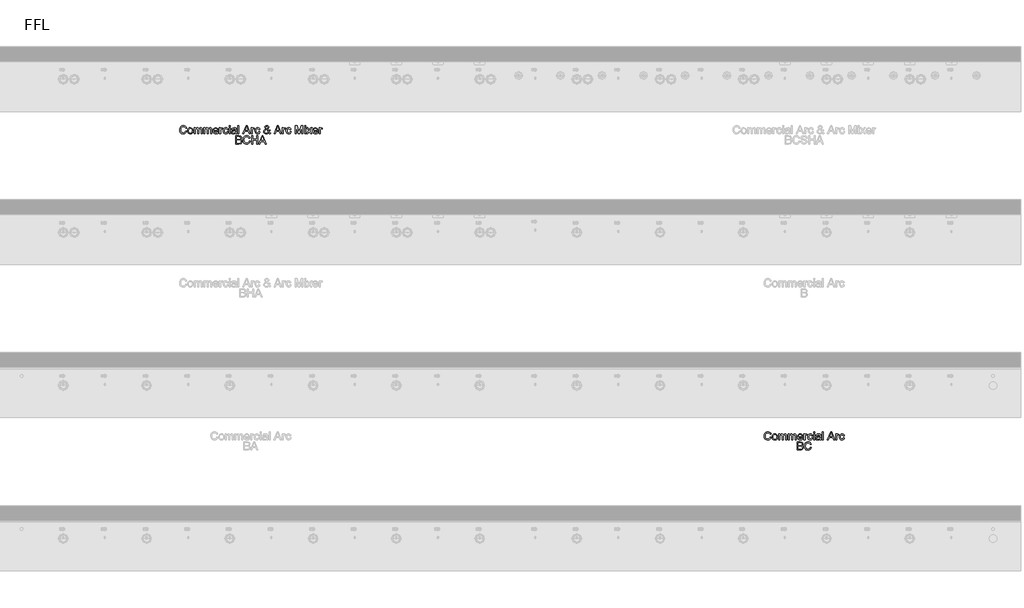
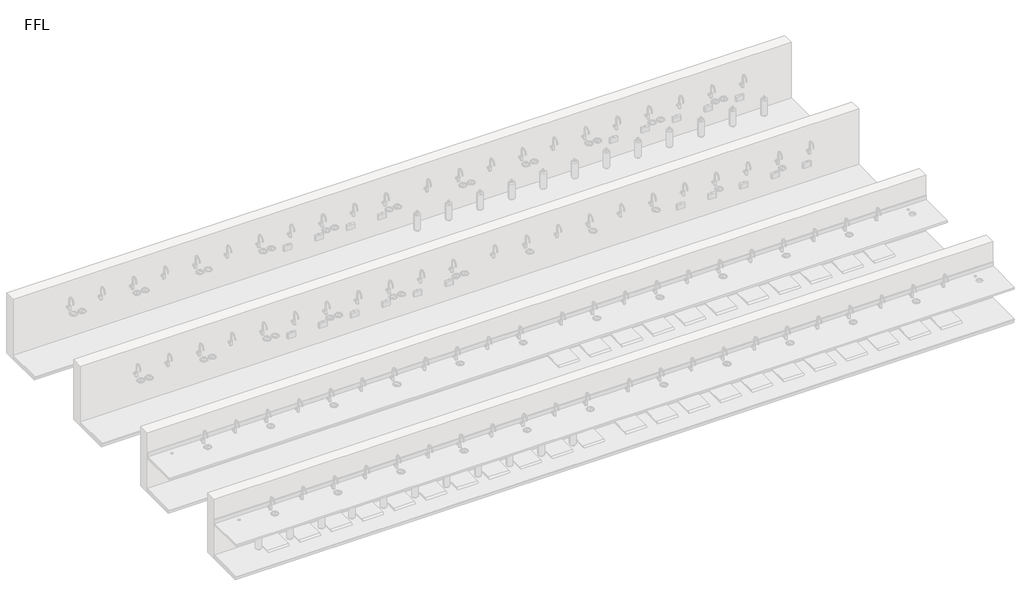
# One storey, part 9 of 10: 2 proxies.
"""IFC4 building model written with IfcOpenShell, lengths in millimetres."""

from ifc_helpers import new_model, si_unit, origin, origin_with_axes, place, context, project, spatial, polyline, outline, extrude, element, save

model = new_model("IFC4")

# Units and contexts
model_context = context("Model", 3, world=origin())
ifc_project = project(units=[si_unit("LENGTHUNIT", "METRE", prefix="MILLI")], contexts=[model_context])

# Site, building, storey
site = spatial("IfcSite", under=ifc_project)
building = spatial("IfcBuilding", under=site)
storey = spatial("IfcBuildingStorey", under=building, Name="FFL", Elevation=0.0)

# Proxies
placement = place(None, origin())
element("IfcBuildingElementProxy", 1, Name="150mm Arial", ObjectType="150mm Arial", at=placement, inside=storey, context=model_context, shape_type="SweptSolid", body=[
    extrude(outline(polyline([(-3514.7352929, 6596.3018309), (-3496.2737544, 6591.5422155), (-3504.7923842, 6570.0292948), (-3518.1607736, 6554.3126482), (-3535.7208698, 6544.698766), (-3556.8146198, 6541.4941386), (-3578.2283818, 6543.9190184), (-3595.2340909, 6551.1936578), (-3608.2689467, 6563.065653), (-3617.7701486, 6579.2826001), (-3623.5709299, 6598.3481049), (-3625.5045236, 6618.7657732), (-3623.318526, 6640.3012299), (-3616.7605333, 6658.8979847), (-3606.1730934, 6673.9655929), (-3591.8987544, 6684.9136097), (-3574.9696679, 6691.5797756), (-3556.4179852, 6693.8018309), (-3536.1760982, 6690.9262299), (-3519.4408217, 6682.299427), (-3506.7349924, 6668.4532732), (-3498.5814467, 6649.9196193), (-3517.0429852, 6645.5205809), (-3523.4432256, 6658.9836217), (-3532.1872159, 6668.2188982), (-3543.3831294, 6673.5599439), (-3557.139139, 6675.3402924), (-3572.9955092, 6673.3661338), (-3586.0213506, 6667.4436578), (-3595.9056655, 6658.1948597), (-3602.3374563, 6646.2417347), (-3607.0429852, 6618.8018309), (-3601.4720717, 6586.9989463), (-3594.3506775, 6575.1224439), (-3584.1283217, 6566.6804367), (-3571.8732135, 6561.6368669), (-3558.6535621, 6559.955677), (-3543.2434059, 6562.2453405), (-3530.4023602, 6569.1143309), (-3520.7073482, 6580.4905328), (-3514.7352929, 6596.3018309)])), origin_with_axes(), (0.0, 0.0, 1.0), 5.0),
    extrude(outline(polyline([(-3477.8122159, 6598.0326001), (-3473.8188265, 6624.1834415), (-3461.8386583, 6642.5638501), (-3447.0369756, 6651.5692588), (-3429.3146198, 6654.5710617), (-3409.9200885, 6650.9157131), (-3394.4288025, 6639.9496674), (-3384.2740549, 6622.5383092), (-3380.889139, 6599.5470232), (-3382.3855333, 6580.8961818), (-3386.8747159, 6566.6984655), (-3394.225978, 6556.0659535), (-3404.3086102, 6548.1107251), (-3416.2842712, 6543.1482852), (-3429.3146198, 6541.4941386), (-3448.943526, 6545.1359655), (-3464.4167833, 6556.0614463), (-3474.4633578, 6573.8378886), (-3477.8122159, 6598.0326001)]), holes=[polyline([(-3459.3506775, 6598.0686578), (-3457.2142592, 6581.3604246), (-3450.8050044, 6569.456879), (-3441.1595717, 6562.3309775), (-3429.3146198, 6559.955677), (-3417.5237544, 6562.3444992), (-3407.8963506, 6569.5109655), (-3401.4870958, 6581.5722636), (-3399.3506775, 6598.6455809), (-3401.5006174, 6614.8670352), (-3407.9504371, 6626.6083213), (-3417.5913626, 6633.7342227), (-3429.3146198, 6636.1095232), (-3441.1595717, 6633.7432371), (-3450.8050044, 6626.644379), (-3457.2142592, 6614.7678766), (-3459.3506775, 6598.0686578)])]), origin_with_axes(), (0.0, 0.0, 1.0), 5.0),
    extrude(outline(polyline([(-3360.1199083, 6543.8018309), (-3360.1199083, 6652.2633693), (-3341.6583698, 6652.2633693), (-3341.6583698, 6634.4148117), (-3328.9660621, 6649.0362059), (-3310.9011583, 6654.5710617), (-3300.6337304, 6653.1603044), (-3292.4035621, 6648.9280328), (-3282.2352929, 6633.1167347), (-3267.8302448, 6649.2074799), (-3249.639139, 6654.5710617), (-3235.7614347, 6652.3399919), (-3225.498514, 6645.6467828), (-3219.1568674, 6634.3111458), (-3217.0429852, 6618.1527924), (-3217.0429852, 6543.8018309), (-3235.5045236, 6543.8018309), (-3235.5045236, 6610.2201001), (-3237.217264, 6625.6347636), (-3243.4191871, 6633.2249078), (-3253.9660621, 6636.1095232), (-3263.9675645, 6634.2615665), (-3272.1211102, 6628.7176963), (-3277.5432857, 6619.0993068), (-3279.3506775, 6605.0277924), (-3279.3506775, 6543.8018309), (-3297.8122159, 6543.8018309), (-3297.8122159, 6612.2753886), (-3302.0850525, 6630.160004), (-3307.7235741, 6634.6221434), (-3316.0934659, 6636.1095232), (-3329.7593313, 6632.143177), (-3338.8458698, 6620.5326001), (-3341.6583698, 6598.5013501), (-3341.6583698, 6543.8018309), (-3360.1199083, 6543.8018309)])), origin_with_axes(), (0.0, 0.0, 1.0), 5.0),
    extrude(outline(polyline([(-3189.3506775, 6543.8018309), (-3189.3506775, 6652.2633693), (-3170.889139, 6652.2633693), (-3170.889139, 6634.4148117), (-3158.1968313, 6649.0362059), (-3140.1319275, 6654.5710617), (-3129.8644996, 6653.1603044), (-3121.6343313, 6648.9280328), (-3111.4660621, 6633.1167347), (-3097.061014, 6649.2074799), (-3078.8699083, 6654.5710617), (-3064.9922039, 6652.3399919), (-3054.7292833, 6645.6467828), (-3048.3876366, 6634.3111458), (-3046.2737544, 6618.1527924), (-3046.2737544, 6543.8018309), (-3064.7352929, 6543.8018309), (-3064.7352929, 6610.2201001), (-3066.4480333, 6625.6347636), (-3072.6499563, 6633.2249078), (-3083.1968313, 6636.1095232), (-3093.1983337, 6634.2615665), (-3101.3518794, 6628.7176963), (-3106.7740549, 6619.0993068), (-3108.5814467, 6605.0277924), (-3108.5814467, 6543.8018309), (-3127.0429852, 6543.8018309), (-3127.0429852, 6612.2753886), (-3131.3158217, 6630.160004), (-3136.9543434, 6634.6221434), (-3145.3242352, 6636.1095232), (-3158.9901006, 6632.143177), (-3168.076639, 6620.5326001), (-3170.889139, 6598.5013501), (-3170.889139, 6543.8018309), (-3189.3506775, 6543.8018309)])), origin_with_axes(), (0.0, 0.0, 1.0), 5.0),
    extrude(outline(polyline([(-2942.6439467, 6576.1095232), (-2924.5429852, 6573.8018309), (-2931.0649203, 6560.1630088), (-2941.4720717, 6549.9676963), (-2955.5300645, 6543.612528), (-2973.0045236, 6541.4941386), (-2994.6661823, 6545.1494871), (-3011.3338506, 6556.1155328), (-3021.9618554, 6573.6801362), (-3025.5045236, 6597.1311578), (-3021.9257977, 6621.3709415), (-3011.1896198, 6639.4989463), (-2994.7473121, 6650.8030328), (-2974.0501967, 6654.5710617), (-2953.9976126, 6650.8120472), (-2937.9744756, 6639.535004), (-2927.4681655, 6621.4430568), (-2923.9660621, 6597.2393309), (-2924.0742352, 6592.2633693), (-3007.0429852, 6592.2633693), (-3003.8473722, 6578.4442588), (-2996.4239948, 6568.285004), (-2985.710353, 6562.0380088), (-2972.6439467, 6559.955677), (-2954.5429852, 6563.8138501), (-2942.6439467, 6576.1095232)]), holes=[polyline([(-3007.0429852, 6610.7249078), (-2942.4276006, 6610.7249078), (-2944.9245958, 6620.4785136), (-2949.8194275, 6627.455677), (-2960.5826486, 6633.9460617), (-2974.1223121, 6636.1095232), (-2986.5667232, 6634.3832612), (-2996.8566871, 6629.2044751), (-3004.0096318, 6621.1320592), (-3007.0429852, 6610.7249078)])]), origin_with_axes(), (0.0, 0.0, 1.0), 5.0),
    extrude(outline(polyline([(-2905.5045236, 6543.8018309), (-2905.5045236, 6652.2633693), (-2889.3506775, 6652.2633693), (-2889.3506775, 6636.2176963), (-2877.8843313, 6651.0013501), (-2866.3458698, 6654.5710617), (-2847.8122159, 6648.8739463), (-2853.9780813, 6632.3234655), (-2866.9588506, 6636.1095232), (-2877.3975525, 6632.4676963), (-2884.0501967, 6622.3715424), (-2887.0429852, 6600.8090424), (-2887.0429852, 6543.8018309), (-2905.5045236, 6543.8018309)])), origin_with_axes(), (0.0, 0.0, 1.0), 5.0),
    extrude(outline(polyline([(-2767.0429852, 6583.0326001), (-2748.5814467, 6580.7249078), (-2753.7286823, 6564.3051362), (-2763.4011583, 6551.8967828), (-2776.6884179, 6544.0947996), (-2792.6800044, 6541.4941386), (-2812.3179251, 6545.1224439), (-2827.6739948, 6556.0073597), (-2837.585353, 6573.6711217), (-2840.889139, 6597.6359655), (-2835.2461102, 6628.3030328), (-2828.1247159, 6639.8009294), (-2818.0465909, 6648.0085617), (-2805.9898001, 6652.9304367), (-2792.9324083, 6654.5710617), (-2777.3329491, 6652.3174559), (-2764.8614948, 6645.5566386), (-2755.9146799, 6634.6491867), (-2750.889139, 6619.955677), (-2769.3506775, 6617.6479847), (-2777.9143794, 6631.4761097), (-2792.7881775, 6636.1095232), (-2804.7187664, 6633.8288742), (-2814.1884179, 6626.986927), (-2820.3678049, 6615.2140905), (-2822.4276006, 6598.1407732), (-2820.412877, 6580.8375881), (-2814.3687063, 6569.0241867), (-2805.0703289, 6562.2228044), (-2793.2929852, 6559.955677), (-2783.7331895, 6561.3709415), (-2775.8951486, 6565.6167347), (-2770.193526, 6572.8012299), (-2767.0429852, 6583.0326001)])), origin_with_axes(), (0.0, 0.0, 1.0), 5.0),
    extrude(outline(polyline([(-2732.4276006, 6673.0326001), (-2732.4276006, 6691.4941386), (-2713.9660621, 6691.4941386), (-2713.9660621, 6673.0326001), (-2732.4276006, 6673.0326001)])), origin_with_axes(), (0.0, 0.0, 1.0), 5.0),
    extrude(outline(polyline([(-2732.4276006, 6543.8018309), (-2732.4276006, 6652.2633693), (-2713.9660621, 6652.2633693), (-2713.9660621, 6543.8018309), (-2732.4276006, 6543.8018309)])), origin_with_axes(), (0.0, 0.0, 1.0), 5.0),
    extrude(outline(polyline([(-2617.0429852, 6557.6479847), (-2634.9456294, 6545.1359655), (-2654.7232736, 6541.4941386), (-2670.1514587, 6543.6846434), (-2681.5321679, 6550.2561578), (-2688.5498962, 6560.2351242), (-2690.889139, 6572.6479847), (-2687.3554852, 6587.2513501), (-2678.0706294, 6597.8523117), (-2665.1439467, 6603.910004), (-2649.170389, 6606.6864463), (-2617.1511583, 6613.0326001), (-2617.0429852, 6617.143177), (-2618.3140188, 6625.3823597), (-2622.1271198, 6630.7729847), (-2630.654764, 6634.7753886), (-2642.5357736, 6636.1095232), (-2661.2136583, 6632.5578405), (-2670.1199083, 6619.955677), (-2688.5814467, 6622.2633693), (-2680.5946679, 6640.2922155), (-2664.5129371, 6650.8571193), (-2640.1559659, 6654.5710617), (-2617.7821679, 6651.2898117), (-2605.1439467, 6643.050629), (-2599.482889, 6630.5205809), (-2598.5814467, 6614.3667347), (-2598.5814467, 6591.3979847), (-2597.6439467, 6559.3246674), (-2593.9660621, 6543.8018309), (-2612.4276006, 6543.8018309), (-2617.0429852, 6557.6479847)]), holes=[polyline([(-2617.0429852, 6594.5710617), (-2646.826639, 6588.910004), (-2662.7100525, 6585.9172155), (-2669.9035621, 6581.049427), (-2672.4276006, 6573.9460617), (-2666.9288025, 6563.9580809), (-2650.7929852, 6559.955677), (-2632.1151006, 6564.3727443), (-2620.0718313, 6575.0638501), (-2617.1511583, 6589.3426963), (-2617.0429852, 6594.5710617)])]), origin_with_axes(), (0.0, 0.0, 1.0), 5.0),
    extrude(outline(polyline([(-2573.1968313, 6543.8018309), (-2573.1968313, 6691.4941386), (-2554.7352929, 6691.4941386), (-2554.7352929, 6543.8018309), (-2573.1968313, 6543.8018309)])), origin_with_axes(), (0.0, 0.0, 1.0), 5.0),
    extrude(outline(polyline([(-2484.2425044, 6543.8018309), (-2425.2881775, 6691.4941386), (-2409.5670236, 6691.4941386), (-2350.6126967, 6543.8018309), (-2370.1199083, 6543.8018309), (-2387.0309659, 6589.955677), (-2447.8602929, 6589.955677), (-2464.7352929, 6543.8018309), (-2484.2425044, 6543.8018309)]), holes=[polyline([(-2441.0814467, 6608.4172155), (-2393.7737544, 6608.4172155), (-2407.0790429, 6644.7273117), (-2417.4276006, 6673.0326001), (-2426.6223121, 6647.9003886), (-2441.0814467, 6608.4172155)])]), origin_with_axes(), (0.0, 0.0, 1.0), 5.0),
    extrude(outline(polyline([(-2333.1968313, 6543.8018309), (-2333.1968313, 6652.2633693), (-2317.0429852, 6652.2633693), (-2317.0429852, 6636.2176963), (-2305.576639, 6651.0013501), (-2294.0381775, 6654.5710617), (-2275.5045236, 6648.8739463), (-2281.670389, 6632.3234655), (-2294.6511583, 6636.1095232), (-2305.0898602, 6632.4676963), (-2311.7425044, 6622.3715424), (-2314.7352929, 6600.8090424), (-2314.7352929, 6543.8018309), (-2333.1968313, 6543.8018309)])), origin_with_axes(), (0.0, 0.0, 1.0), 5.0),
    extrude(outline(polyline([(-2194.7352929, 6583.0326001), (-2176.2737544, 6580.7249078), (-2181.42099, 6564.3051362), (-2191.0934659, 6551.8967828), (-2204.3807256, 6544.0947996), (-2220.3723121, 6541.4941386), (-2240.0102328, 6545.1224439), (-2255.3663025, 6556.0073597), (-2265.2776607, 6573.6711217), (-2268.5814467, 6597.6359655), (-2262.9384179, 6628.3030328), (-2255.8170236, 6639.8009294), (-2245.7388986, 6648.0085617), (-2233.6821078, 6652.9304367), (-2220.6247159, 6654.5710617), (-2205.0252568, 6652.3174559), (-2192.5538025, 6645.5566386), (-2183.6069876, 6634.6491867), (-2178.5814467, 6619.955677), (-2197.0429852, 6617.6479847), (-2205.6066871, 6631.4761097), (-2220.4804852, 6636.1095232), (-2232.4110741, 6633.8288742), (-2241.8807256, 6626.986927), (-2248.0601126, 6615.2140905), (-2250.1199083, 6598.1407732), (-2248.1051847, 6580.8375881), (-2242.061014, 6569.0241867), (-2232.7626366, 6562.2228044), (-2220.9852929, 6559.955677), (-2211.4254972, 6561.3709415), (-2203.5874563, 6565.6167347), (-2197.8858337, 6572.8012299), (-2194.7352929, 6583.0326001)])), origin_with_axes(), (0.0, 0.0, 1.0), 5.0),
    extrude(outline(polyline([(-2017.7280813, 6562.0470232), (-2037.3074083, 6546.6323597), (-2060.2040429, 6541.4941386), (-2080.576639, 6545.2982251), (-2096.2617352, 6556.7104847), (-2104.3476727, 6569.8444992), (-2107.0429852, 6584.4388501), (-2104.8750164, 6597.3745472), (-2098.3711102, 6608.9941386), (-2087.5583097, 6619.2886097), (-2072.4636583, 6628.2489463), (-2085.3542833, 6646.9268309), (-2088.5814467, 6660.7729847), (-2086.0393794, 6673.2399318), (-2078.4131775, 6683.9580809), (-2066.9378169, 6691.3408934), (-2052.8482736, 6693.8018309), (-2039.4438265, 6691.4490665), (-2028.7256775, 6684.3907732), (-2021.6944275, 6674.0332011), (-2019.3506775, 6661.7826001), (-2021.0859539, 6651.4971434), (-2026.2917833, 6641.986927), (-2047.1151006, 6625.2922155), (-2020.3963506, 6592.0109655), (-2012.4276006, 6612.455677), (-1993.9660621, 6608.4532732), (-2007.0189467, 6578.0566386), (-1984.7352929, 6555.7008693), (-1998.5814467, 6541.4941386), (-2017.7280813, 6562.0470232)]), holes=[polyline([(-2056.4540429, 6636.9388501), (-2041.2737544, 6648.3871674), (-2037.8122159, 6659.2585617), (-2042.373514, 6670.8511097), (-2053.7857736, 6675.3402924), (-2065.4504371, 6670.8871674), (-2070.1199083, 6660.0157732), (-2068.5333698, 6653.2549559), (-2063.7376967, 6645.736927), (-2056.4540429, 6636.9388501)]), polyline([(-2030.0958698, 6575.3523117), (-2063.0526006, 6616.4941386), (-2083.3350525, 6601.0253886), (-2088.5814467, 6586.8907732), (-2086.7875765, 6578.1828405), (-2081.4059659, 6569.1503886), (-2072.7340909, 6562.2543549), (-2061.0694275, 6559.955677), (-2044.1042833, 6564.2465424), (-2030.0958698, 6575.3523117)])]), origin_with_axes(), (0.0, 0.0, 1.0), 5.0),
    extrude(outline(polyline([(-1923.4732736, 6543.8018309), (-1864.5189467, 6691.4941386), (-1848.7977929, 6691.4941386), (-1789.8434659, 6543.8018309), (-1809.3506775, 6543.8018309), (-1826.2617352, 6589.955677), (-1887.0910621, 6589.955677), (-1903.9660621, 6543.8018309), (-1923.4732736, 6543.8018309)]), holes=[polyline([(-1880.3122159, 6608.4172155), (-1833.0045236, 6608.4172155), (-1846.3098121, 6644.7273117), (-1856.6583698, 6673.0326001), (-1865.8530813, 6647.9003886), (-1880.3122159, 6608.4172155)])]), origin_with_axes(), (0.0, 0.0, 1.0), 5.0),
    extrude(outline(polyline([(-1772.4276006, 6543.8018309), (-1772.4276006, 6652.2633693), (-1756.2737544, 6652.2633693), (-1756.2737544, 6636.2176963), (-1744.8074083, 6651.0013501), (-1733.2689467, 6654.5710617), (-1714.7352929, 6648.8739463), (-1720.9011583, 6632.3234655), (-1733.8819275, 6636.1095232), (-1744.3206294, 6632.4676963), (-1750.9732736, 6622.3715424), (-1753.9660621, 6600.8090424), (-1753.9660621, 6543.8018309), (-1772.4276006, 6543.8018309)])), origin_with_axes(), (0.0, 0.0, 1.0), 5.0),
    extrude(outline(polyline([(-1633.9660621, 6583.0326001), (-1615.5045236, 6580.7249078), (-1620.6517592, 6564.3051362), (-1630.3242352, 6551.8967828), (-1643.6114948, 6544.0947996), (-1659.6030813, 6541.4941386), (-1679.241002, 6545.1224439), (-1694.5970717, 6556.0073597), (-1704.5084299, 6573.6711217), (-1707.8122159, 6597.6359655), (-1702.1691871, 6628.3030328), (-1695.0477929, 6639.8009294), (-1684.9696679, 6648.0085617), (-1672.912877, 6652.9304367), (-1659.8554852, 6654.5710617), (-1644.256026, 6652.3174559), (-1631.7845717, 6645.5566386), (-1622.8377568, 6634.6491867), (-1617.8122159, 6619.955677), (-1636.2737544, 6617.6479847), (-1644.8374563, 6631.4761097), (-1659.7112544, 6636.1095232), (-1671.6418434, 6633.8288742), (-1681.1114948, 6626.986927), (-1687.2908818, 6615.2140905), (-1689.3506775, 6598.1407732), (-1687.3359539, 6580.8375881), (-1681.2917833, 6569.0241867), (-1671.9934059, 6562.2228044), (-1660.2160621, 6559.955677), (-1650.6562664, 6561.3709415), (-1642.8182256, 6565.6167347), (-1637.116603, 6572.8012299), (-1633.9660621, 6583.0326001)])), origin_with_axes(), (0.0, 0.0, 1.0), 5.0),
    extrude(outline(polyline([(-1539.3506775, 6543.8018309), (-1539.3506775, 6691.4941386), (-1507.5838506, 6691.4941386), (-1477.3675044, 6587.3955809), (-1471.2737544, 6565.6527924), (-1464.6751967, 6589.1984655), (-1434.9636583, 6691.4941386), (-1403.1968313, 6691.4941386), (-1403.1968313, 6543.8018309), (-1421.6583698, 6543.8018309), (-1421.6583698, 6673.0326001), (-1458.7617352, 6543.8018309), (-1483.7857736, 6543.8018309), (-1520.889139, 6673.0326001), (-1520.889139, 6543.8018309), (-1539.3506775, 6543.8018309)])), origin_with_axes(), (0.0, 0.0, 1.0), 5.0),
    extrude(outline(polyline([(-1373.1968313, 6543.8018309), (-1373.1968313, 6652.2633693), (-1354.7352929, 6652.2633693), (-1354.7352929, 6543.8018309), (-1373.1968313, 6543.8018309)])), origin_with_axes(), (0.0, 0.0, 1.0), 5.0),
    extrude(outline(polyline([(-1373.1968313, 6673.0326001), (-1373.1968313, 6691.4941386), (-1354.7352929, 6691.4941386), (-1354.7352929, 6673.0326001), (-1373.1968313, 6673.0326001)])), origin_with_axes(), (0.0, 0.0, 1.0), 5.0),
    extrude(outline(polyline([(-1338.5814467, 6543.8018309), (-1299.1343313, 6598.3210617), (-1336.2737544, 6652.2633693), (-1314.0622159, 6652.2633693), (-1296.1415429, 6626.3018309), (-1287.7761583, 6614.0422155), (-1280.5285621, 6624.066254), (-1260.1199083, 6652.2633693), (-1237.9083698, 6652.2633693), (-1276.9227929, 6598.3210617), (-1239.3506775, 6543.8018309), (-1261.5622159, 6543.8018309), (-1284.170389, 6576.5782732), (-1288.3170236, 6582.5638501), (-1316.3699083, 6543.8018309), (-1338.5814467, 6543.8018309)])), origin_with_axes(), (0.0, 0.0, 1.0), 5.0),
    extrude(outline(polyline([(-1147.2593313, 6576.1095232), (-1129.1583698, 6573.8018309), (-1135.6803049, 6560.1630088), (-1146.0874563, 6549.9676963), (-1160.1454491, 6543.612528), (-1177.6199083, 6541.4941386), (-1199.2815669, 6545.1494871), (-1215.9492352, 6556.1155328), (-1226.57724, 6573.6801362), (-1230.1199083, 6597.1311578), (-1226.5411823, 6621.3709415), (-1215.8050044, 6639.4989463), (-1199.3626967, 6650.8030328), (-1178.6655813, 6654.5710617), (-1158.6129972, 6650.8120472), (-1142.5898602, 6639.535004), (-1132.0835501, 6621.4430568), (-1128.5814467, 6597.2393309), (-1128.6896198, 6592.2633693), (-1211.6583698, 6592.2633693), (-1208.4627568, 6578.4442588), (-1201.0393794, 6568.285004), (-1190.3257376, 6562.0380088), (-1177.2593313, 6559.955677), (-1159.1583698, 6563.8138501), (-1147.2593313, 6576.1095232)]), holes=[polyline([(-1211.6583698, 6610.7249078), (-1147.0429852, 6610.7249078), (-1149.5399804, 6620.4785136), (-1154.4348121, 6627.455677), (-1165.1980333, 6633.9460617), (-1178.7376967, 6636.1095232), (-1191.1821078, 6634.3832612), (-1201.4720717, 6629.2044751), (-1208.6250164, 6621.1320592), (-1211.6583698, 6610.7249078)])]), origin_with_axes(), (0.0, 0.0, 1.0), 5.0),
    extrude(outline(polyline([(-1110.1199083, 6543.8018309), (-1110.1199083, 6652.2633693), (-1093.9660621, 6652.2633693), (-1093.9660621, 6636.2176963), (-1082.4997159, 6651.0013501), (-1070.9612544, 6654.5710617), (-1052.4276006, 6648.8739463), (-1058.5934659, 6632.3234655), (-1071.5742352, 6636.1095232), (-1082.0129371, 6632.4676963), (-1088.6655813, 6622.3715424), (-1091.6583698, 6600.8090424), (-1091.6583698, 6543.8018309), (-1110.1199083, 6543.8018309)])), origin_with_axes(), (0.0, 0.0, 1.0), 5.0),
    extrude(outline(polyline([(-2612.4276006, 6361.4941386), (-2612.4276006, 6509.1864463), (-2556.0694275, 6509.1864463), (-2528.467264, 6504.8414943), (-2519.1914227, 6499.3291746), (-2512.1691871, 6491.4821193), (-2506.2737544, 6472.5878886), (-2511.2316871, 6455.3342828), (-2526.2136583, 6442.2633693), (-2515.7524203, 6436.800629), (-2508.0225525, 6428.4893309), (-2503.2494155, 6417.8793549), (-2501.6583698, 6405.5205809), (-2506.0033217, 6385.6708213), (-2516.7665429, 6371.5362059), (-2532.8302448, 6364.0362059), (-2556.5021198, 6361.4941386), (-2612.4276006, 6361.4941386)]), holes=[polyline([(-2593.9660621, 6379.955677), (-2556.1054852, 6379.955677), (-2542.4035621, 6380.6768309), (-2530.811014, 6384.6972636), (-2523.1307256, 6392.9003886), (-2520.1199083, 6405.3402924), (-2523.6535621, 6419.691254), (-2535.1018794, 6428.2549559), (-2557.9083698, 6430.7249078), (-2593.9660621, 6430.7249078), (-2593.9660621, 6379.955677)]), polyline([(-2593.9660621, 6449.1864463), (-2560.2521198, 6449.1864463), (-2540.5646198, 6450.7729847), (-2528.7196679, 6457.6059174), (-2524.7352929, 6469.6311578), (-2528.4492352, 6481.674427), (-2539.0862544, 6488.7958213), (-2562.8122159, 6490.7249078), (-2593.9660621, 6490.7249078), (-2593.9660621, 6449.1864463)])]), origin_with_axes(), (0.0, 0.0, 1.0), 5.0),
    extrude(outline(polyline([(-2372.4276006, 6413.9941386), (-2353.9660621, 6409.2345232), (-2362.4846919, 6387.7216025), (-2375.8530813, 6372.0049559), (-2393.4131775, 6362.3910737), (-2414.5069275, 6359.1864463), (-2435.9206895, 6361.6113261), (-2452.9263986, 6368.8859655), (-2465.9612544, 6380.7579607), (-2475.4624563, 6396.9749078), (-2481.2632376, 6416.0404126), (-2483.1968313, 6436.4580809), (-2481.0108337, 6457.9935376), (-2474.4528409, 6476.5902924), (-2463.865401, 6491.6579006), (-2449.5910621, 6502.6059174), (-2432.6619756, 6509.2720833), (-2414.1102929, 6511.4941386), (-2393.8684059, 6508.6185376), (-2377.1331294, 6499.9917347), (-2364.4273001, 6486.1455809), (-2356.2737544, 6467.611927), (-2374.7352929, 6463.2128886), (-2381.1355333, 6476.6759294), (-2389.8795236, 6485.9112059), (-2401.0754371, 6491.2522516), (-2414.8314467, 6493.0326001), (-2430.6878169, 6491.0584415), (-2443.7136583, 6485.1359655), (-2453.5979732, 6475.8871674), (-2460.029764, 6463.9340424), (-2464.7352929, 6436.4941386), (-2459.1643794, 6404.691254), (-2452.0429852, 6392.8147516), (-2441.8206294, 6384.3727443), (-2429.5655212, 6379.3291746), (-2416.3458698, 6377.6479847), (-2400.9357135, 6379.9376482), (-2388.0946679, 6386.8066386), (-2378.3996559, 6398.1828405), (-2372.4276006, 6413.9941386)])), origin_with_axes(), (0.0, 0.0, 1.0), 5.0),
    extrude(outline(polyline([(-2328.5814467, 6361.4941386), (-2328.5814467, 6509.1864463), (-2310.1199083, 6509.1864463), (-2310.1199083, 6449.1864463), (-2231.6583698, 6449.1864463), (-2231.6583698, 6509.1864463), (-2213.1968313, 6509.1864463), (-2213.1968313, 6361.4941386), (-2231.6583698, 6361.4941386), (-2231.6583698, 6430.7249078), (-2310.1199083, 6430.7249078), (-2310.1199083, 6361.4941386), (-2328.5814467, 6361.4941386)])), origin_with_axes(), (0.0, 0.0, 1.0), 5.0),
    extrude(outline(polyline([(-2198.0886583, 6361.4941386), (-2139.1343313, 6509.1864463), (-2123.4131775, 6509.1864463), (-2064.4588506, 6361.4941386), (-2083.9660621, 6361.4941386), (-2100.8771198, 6407.6479847), (-2161.7064467, 6407.6479847), (-2178.5814467, 6361.4941386), (-2198.0886583, 6361.4941386)]), holes=[polyline([(-2154.9276006, 6426.1095232), (-2107.6199083, 6426.1095232), (-2120.9251967, 6462.4196193), (-2131.2737544, 6490.7249078), (-2140.4684659, 6465.5926963), (-2154.9276006, 6426.1095232)])]), origin_with_axes(), (0.0, 0.0, 1.0), 5.0),
])
element("IfcBuildingElementProxy", 2, Name="150mm Arial", ObjectType="150mm Arial", at=placement, inside=storey, context=model_context, shape_type="SweptSolid", body=[
    extrude(outline(polyline([(7014.8800917, 1076.3018309), (7033.3416302, 1071.5422155), (7024.8230004, 1050.0292948), (7011.454611, 1034.3126482), (6993.8945148, 1024.698766), (6972.8007648, 1021.4941386), (6951.3870028, 1023.9190184), (6934.3812937, 1031.1936578), (6921.3464379, 1043.065653), (6911.845236, 1059.2826001), (6906.0444547, 1078.3481049), (6904.110861, 1098.7657732), (6906.2968586, 1120.3012299), (6912.8548514, 1138.8979847), (6923.4422913, 1153.9655929), (6937.7166302, 1164.9136097), (6954.6457167, 1171.5797756), (6973.1973994, 1173.8018309), (6993.4392865, 1170.9262299), (7010.1745629, 1162.299427), (7022.8803922, 1148.4532732), (7031.0339379, 1129.9196193), (7012.5723994, 1125.5205809), (7006.1721591, 1138.9836217), (6997.4281687, 1148.2188982), (6986.2322552, 1153.5599439), (6972.4762456, 1155.3402924), (6956.6198754, 1153.3661338), (6943.5940341, 1147.4436578), (6933.7097191, 1138.1948597), (6927.2779283, 1126.2417347), (6922.5723994, 1098.8018309), (6928.1433129, 1066.9989463), (6935.2647071, 1055.1224439), (6945.4870629, 1046.6804367), (6957.7421711, 1041.6368669), (6970.9618225, 1039.955677), (6986.3719788, 1042.2453405), (6999.2130244, 1049.1143309), (7008.9080365, 1060.4905328), (7014.8800917, 1076.3018309)])), origin_with_axes(), (0.0, 0.0, 1.0), 5.0),
    extrude(outline(polyline([(7051.8031687, 1078.0326001), (7055.7965581, 1104.1834415), (7067.7767264, 1122.5638501), (7082.5784091, 1131.5692588), (7100.3007648, 1134.5710617), (7119.6952961, 1130.9157131), (7135.1865821, 1119.9496674), (7145.3413297, 1102.5383092), (7148.7262456, 1079.5470232), (7147.2298514, 1060.8961818), (7142.7406687, 1046.6984655), (7135.3894066, 1036.0659535), (7125.3067744, 1028.1107251), (7113.3311134, 1023.1482852), (7100.3007648, 1021.4941386), (7080.6718586, 1025.1359655), (7065.1986014, 1036.0614463), (7055.1520268, 1053.8378886), (7051.8031687, 1078.0326001)]), holes=[polyline([(7070.2647071, 1078.0686578), (7072.4011254, 1061.3604246), (7078.8103802, 1049.456879), (7088.4558129, 1042.3309775), (7100.3007648, 1039.955677), (7112.0916302, 1042.3444992), (7121.7190341, 1049.5109655), (7128.1282889, 1061.5722636), (7130.2647071, 1078.6455809), (7128.1147672, 1094.8670352), (7121.6649475, 1106.6083213), (7112.024022, 1113.7342227), (7100.3007648, 1116.1095232), (7088.4558129, 1113.7432371), (7078.8103802, 1106.644379), (7072.4011254, 1094.7678766), (7070.2647071, 1078.0686578)])]), origin_with_axes(), (0.0, 0.0, 1.0), 5.0),
    extrude(outline(polyline([(7169.4954764, 1023.8018309), (7169.4954764, 1132.2633693), (7187.9570148, 1132.2633693), (7187.9570148, 1114.4148117), (7200.6493225, 1129.0362059), (7218.7142264, 1134.5710617), (7228.9816542, 1133.1603044), (7237.2118225, 1128.9280328), (7247.3800917, 1113.1167347), (7261.7851398, 1129.2074799), (7279.9762456, 1134.5710617), (7293.8539499, 1132.3399919), (7304.1168706, 1125.6467828), (7310.4585172, 1114.3111458), (7312.5723994, 1098.1527924), (7312.5723994, 1023.8018309), (7294.110861, 1023.8018309), (7294.110861, 1090.2201001), (7292.3981206, 1105.6347636), (7286.1961975, 1113.2249078), (7275.6493225, 1116.1095232), (7265.6478201, 1114.2615665), (7257.4942744, 1108.7176963), (7252.072099, 1099.0993068), (7250.2647071, 1085.0277924), (7250.2647071, 1023.8018309), (7231.8031687, 1023.8018309), (7231.8031687, 1092.2753886), (7227.5303321, 1110.160004), (7221.8918105, 1114.6221434), (7213.5219187, 1116.1095232), (7199.8560533, 1112.143177), (7190.7695148, 1100.5326001), (7187.9570148, 1078.5013501), (7187.9570148, 1023.8018309), (7169.4954764, 1023.8018309)])), origin_with_axes(), (0.0, 0.0, 1.0), 5.0),
    extrude(outline(polyline([(7340.2647071, 1023.8018309), (7340.2647071, 1132.2633693), (7358.7262456, 1132.2633693), (7358.7262456, 1114.4148117), (7371.4185533, 1129.0362059), (7389.4834571, 1134.5710617), (7399.750885, 1133.1603044), (7407.9810533, 1128.9280328), (7418.1493225, 1113.1167347), (7432.5543706, 1129.2074799), (7450.7454764, 1134.5710617), (7464.6231807, 1132.3399919), (7474.8861014, 1125.6467828), (7481.227748, 1114.3111458), (7483.3416302, 1098.1527924), (7483.3416302, 1023.8018309), (7464.8800917, 1023.8018309), (7464.8800917, 1090.2201001), (7463.1673514, 1105.6347636), (7456.9654283, 1113.2249078), (7446.4185533, 1116.1095232), (7436.4170509, 1114.2615665), (7428.2635052, 1108.7176963), (7422.8413297, 1099.0993068), (7421.0339379, 1085.0277924), (7421.0339379, 1023.8018309), (7402.5723994, 1023.8018309), (7402.5723994, 1092.2753886), (7398.2995629, 1110.160004), (7392.6610413, 1114.6221434), (7384.2911494, 1116.1095232), (7370.6252841, 1112.143177), (7361.5387456, 1100.5326001), (7358.7262456, 1078.5013501), (7358.7262456, 1023.8018309), (7340.2647071, 1023.8018309)])), origin_with_axes(), (0.0, 0.0, 1.0), 5.0),
    extrude(outline(polyline([(7586.9714379, 1056.1095232), (7605.0723994, 1053.8018309), (7598.5504643, 1040.1630088), (7588.1433129, 1029.9676963), (7574.0853201, 1023.612528), (7556.610861, 1021.4941386), (7534.9492023, 1025.1494871), (7518.2815341, 1036.1155328), (7507.6535292, 1053.6801362), (7504.110861, 1077.1311578), (7507.6895869, 1101.3709415), (7518.4257648, 1119.4989463), (7534.8680725, 1130.8030328), (7555.5651879, 1134.5710617), (7575.617772, 1130.8120472), (7591.6409091, 1119.535004), (7602.1472191, 1101.4430568), (7605.6493225, 1077.2393309), (7605.5411494, 1072.2633693), (7522.5723994, 1072.2633693), (7525.7680124, 1058.4442588), (7533.1913898, 1048.285004), (7543.9050316, 1042.0380088), (7556.9714379, 1039.955677), (7575.0723994, 1043.8138501), (7586.9714379, 1056.1095232)]), holes=[polyline([(7522.5723994, 1090.7249078), (7587.1877841, 1090.7249078), (7584.6907889, 1100.4785136), (7579.7959571, 1107.455677), (7569.032736, 1113.9460617), (7555.4930725, 1116.1095232), (7543.0486615, 1114.3832612), (7532.7586975, 1109.2044751), (7525.6057528, 1101.1320592), (7522.5723994, 1090.7249078)])]), origin_with_axes(), (0.0, 0.0, 1.0), 5.0),
    extrude(outline(polyline([(7624.110861, 1023.8018309), (7624.110861, 1132.2633693), (7640.2647071, 1132.2633693), (7640.2647071, 1116.2176963), (7651.7310533, 1131.0013501), (7663.2695148, 1134.5710617), (7681.8031687, 1128.8739463), (7675.6373033, 1112.3234655), (7662.6565341, 1116.1095232), (7652.2178321, 1112.4676963), (7645.5651879, 1102.3715424), (7642.5723994, 1080.8090424), (7642.5723994, 1023.8018309), (7624.110861, 1023.8018309)])), origin_with_axes(), (0.0, 0.0, 1.0), 5.0),
    extrude(outline(polyline([(7762.5723994, 1063.0326001), (7781.0339379, 1060.7249078), (7775.8867023, 1044.3051362), (7766.2142264, 1031.8967828), (7752.9269667, 1024.0947996), (7736.9353802, 1021.4941386), (7717.2974595, 1025.1224439), (7701.9413898, 1036.0073597), (7692.0300316, 1053.6711217), (7688.7262456, 1077.6359655), (7694.3692744, 1108.3030328), (7701.4906687, 1119.8009294), (7711.5687937, 1128.0085617), (7723.6255845, 1132.9304367), (7736.6829764, 1134.5710617), (7752.2824355, 1132.3174559), (7764.7538898, 1125.5566386), (7773.7007047, 1114.6491867), (7778.7262456, 1099.955677), (7760.2647071, 1097.6479847), (7751.7010052, 1111.4761097), (7736.8272071, 1116.1095232), (7724.8966182, 1113.8288742), (7715.4269667, 1106.986927), (7709.2475797, 1095.2140905), (7707.1877841, 1078.1407732), (7709.2025076, 1060.8375881), (7715.2466783, 1049.0241867), (7724.5450557, 1042.2228044), (7736.3223994, 1039.955677), (7745.8821951, 1041.3709415), (7753.720236, 1045.6167347), (7759.4218586, 1052.8012299), (7762.5723994, 1063.0326001)])), origin_with_axes(), (0.0, 0.0, 1.0), 5.0),
    extrude(outline(polyline([(7797.1877841, 1153.0326001), (7797.1877841, 1171.4941386), (7815.6493225, 1171.4941386), (7815.6493225, 1153.0326001), (7797.1877841, 1153.0326001)])), origin_with_axes(), (0.0, 0.0, 1.0), 5.0),
    extrude(outline(polyline([(7797.1877841, 1023.8018309), (7797.1877841, 1132.2633693), (7815.6493225, 1132.2633693), (7815.6493225, 1023.8018309), (7797.1877841, 1023.8018309)])), origin_with_axes(), (0.0, 0.0, 1.0), 5.0),
    extrude(outline(polyline([(7912.5723994, 1037.6479847), (7894.6697552, 1025.1359655), (7874.892111, 1021.4941386), (7859.4639259, 1023.6846434), (7848.0832167, 1030.2561578), (7841.0654884, 1040.2351242), (7838.7262456, 1052.6479847), (7842.2598994, 1067.2513501), (7851.5447552, 1077.8523117), (7864.4714379, 1083.910004), (7880.4449956, 1086.6864463), (7912.4642264, 1093.0326001), (7912.5723994, 1097.143177), (7911.3013658, 1105.3823597), (7907.4882648, 1110.7729847), (7898.9606206, 1114.7753886), (7887.079611, 1116.1095232), (7868.4017264, 1112.5578405), (7859.4954764, 1099.955677), (7841.0339379, 1102.2633693), (7849.0207167, 1120.2922155), (7865.1024475, 1130.8571193), (7889.4594187, 1134.5710617), (7911.8332167, 1131.2898117), (7924.4714379, 1123.050629), (7930.1324956, 1110.5205809), (7931.0339379, 1094.3667347), (7931.0339379, 1071.3979847), (7931.9714379, 1039.3246674), (7935.6493225, 1023.8018309), (7917.1877841, 1023.8018309), (7912.5723994, 1037.6479847)]), holes=[polyline([(7912.5723994, 1074.5710617), (7882.7887456, 1068.910004), (7866.9053321, 1065.9172155), (7859.7118225, 1061.049427), (7857.1877841, 1053.9460617), (7862.6865821, 1043.9580809), (7878.8223994, 1039.955677), (7897.5002841, 1044.3727443), (7909.5435533, 1055.0638501), (7912.4642264, 1069.3426963), (7912.5723994, 1074.5710617)])]), origin_with_axes(), (0.0, 0.0, 1.0), 5.0),
    extrude(outline(polyline([(7956.4185533, 1023.8018309), (7956.4185533, 1171.4941386), (7974.8800917, 1171.4941386), (7974.8800917, 1023.8018309), (7956.4185533, 1023.8018309)])), origin_with_axes(), (0.0, 0.0, 1.0), 5.0),
    extrude(outline(polyline([(8045.3728802, 1023.8018309), (8104.3272071, 1171.4941386), (8120.048361, 1171.4941386), (8179.0026879, 1023.8018309), (8159.4954764, 1023.8018309), (8142.5844187, 1069.955677), (8081.7550917, 1069.955677), (8064.8800917, 1023.8018309), (8045.3728802, 1023.8018309)]), holes=[polyline([(8088.5339379, 1088.4172155), (8135.8416302, 1088.4172155), (8122.5363417, 1124.7273117), (8112.1877841, 1153.0326001), (8102.9930725, 1127.9003886), (8088.5339379, 1088.4172155)])]), origin_with_axes(), (0.0, 0.0, 1.0), 5.0),
    extrude(outline(polyline([(8196.4185533, 1023.8018309), (8196.4185533, 1132.2633693), (8212.5723994, 1132.2633693), (8212.5723994, 1116.2176963), (8224.0387456, 1131.0013501), (8235.5772071, 1134.5710617), (8254.110861, 1128.8739463), (8247.9449956, 1112.3234655), (8234.9642264, 1116.1095232), (8224.5255244, 1112.4676963), (8217.8728802, 1102.3715424), (8214.8800917, 1080.8090424), (8214.8800917, 1023.8018309), (8196.4185533, 1023.8018309)])), origin_with_axes(), (0.0, 0.0, 1.0), 5.0),
    extrude(outline(polyline([(8334.8800917, 1063.0326001), (8353.3416302, 1060.7249078), (8348.1943946, 1044.3051362), (8338.5219187, 1031.8967828), (8325.2346591, 1024.0947996), (8309.2430725, 1021.4941386), (8289.6051518, 1025.1224439), (8274.2490821, 1036.0073597), (8264.337724, 1053.6711217), (8261.0339379, 1077.6359655), (8266.6769667, 1108.3030328), (8273.798361, 1119.8009294), (8283.876486, 1128.0085617), (8295.9332768, 1132.9304367), (8308.9906687, 1134.5710617), (8324.5901278, 1132.3174559), (8337.0615821, 1125.5566386), (8346.008397, 1114.6491867), (8351.0339379, 1099.955677), (8332.5723994, 1097.6479847), (8324.0086975, 1111.4761097), (8309.1348994, 1116.1095232), (8297.2043105, 1113.8288742), (8287.7346591, 1106.986927), (8281.555272, 1095.2140905), (8279.4954764, 1078.1407732), (8281.5101999, 1060.8375881), (8287.5543706, 1049.0241867), (8296.852748, 1042.2228044), (8308.6300917, 1039.955677), (8318.1898874, 1041.3709415), (8326.0279283, 1045.6167347), (8331.7295509, 1052.8012299), (8334.8800917, 1063.0326001)])), origin_with_axes(), (0.0, 0.0, 1.0), 5.0),
    extrude(outline(polyline([(7499.4954764, 841.4941386), (7499.4954764, 989.1864463), (7555.8536494, 989.1864463), (7583.4558129, 984.8414943), (7592.7316542, 979.3291746), (7599.7538898, 971.4821193), (7605.6493225, 952.5878886), (7600.6913898, 935.3342828), (7585.7094187, 922.2633693), (7596.1706566, 916.800629), (7603.9005244, 908.4893309), (7608.6736615, 897.8793549), (7610.2647071, 885.5205809), (7605.9197552, 865.6708213), (7595.1565341, 851.5362059), (7579.0928321, 844.0362059), (7555.4209571, 841.4941386), (7499.4954764, 841.4941386)]), holes=[polyline([(7517.9570148, 859.955677), (7555.8175917, 859.955677), (7569.5195148, 860.6768309), (7581.1120629, 864.6972636), (7588.7923514, 872.9003886), (7591.8031687, 885.3402924), (7588.2695148, 899.691254), (7576.8211975, 908.2549559), (7554.0147071, 910.7249078), (7517.9570148, 910.7249078), (7517.9570148, 859.955677)]), polyline([(7517.9570148, 929.1864463), (7551.6709571, 929.1864463), (7571.3584571, 930.7729847), (7583.2034091, 937.6059174), (7587.1877841, 949.6311578), (7583.4738417, 961.674427), (7572.8368225, 968.7958213), (7549.110861, 970.7249078), (7517.9570148, 970.7249078), (7517.9570148, 929.1864463)])]), origin_with_axes(), (0.0, 0.0, 1.0), 5.0),
    extrude(outline(polyline([(7739.4954764, 893.9941386), (7757.9570148, 889.2345232), (7749.438385, 867.7216025), (7736.0699956, 852.0049559), (7718.5098994, 842.3910737), (7697.4161494, 839.1864463), (7676.0023874, 841.6113261), (7658.9966783, 848.8859655), (7645.9618225, 860.7579607), (7636.4606206, 876.9749078), (7630.6598393, 896.0404126), (7628.7262456, 916.4580809), (7630.9122432, 937.9935376), (7637.470236, 956.5902924), (7648.0576759, 971.6579006), (7662.3320148, 982.6059174), (7679.2611014, 989.2720833), (7697.8127841, 991.4941386), (7718.0546711, 988.6185376), (7734.7899475, 979.9917347), (7747.4957768, 966.1455809), (7755.6493225, 947.611927), (7737.1877841, 943.2128886), (7730.7875437, 956.6759294), (7722.0435533, 965.9112059), (7710.8476398, 971.2522516), (7697.0916302, 973.0326001), (7681.23526, 971.0584415), (7668.2094187, 965.1359655), (7658.3251038, 955.8871674), (7651.8933129, 943.9340424), (7647.1877841, 916.4941386), (7652.7586975, 884.691254), (7659.8800917, 872.8147516), (7670.1024475, 864.3727443), (7682.3575557, 859.3291746), (7695.5772071, 857.6479847), (7710.9873634, 859.9376482), (7723.8284091, 866.8066386), (7733.5234211, 878.1828405), (7739.4954764, 893.9941386)])), origin_with_axes(), (0.0, 0.0, 1.0), 5.0),
])

save(model, "model.ifc")
